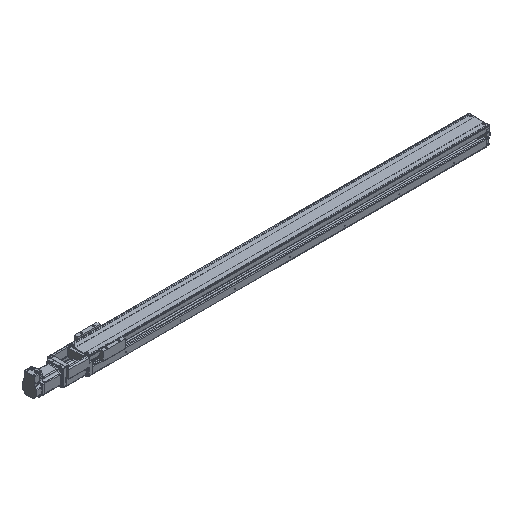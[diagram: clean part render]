
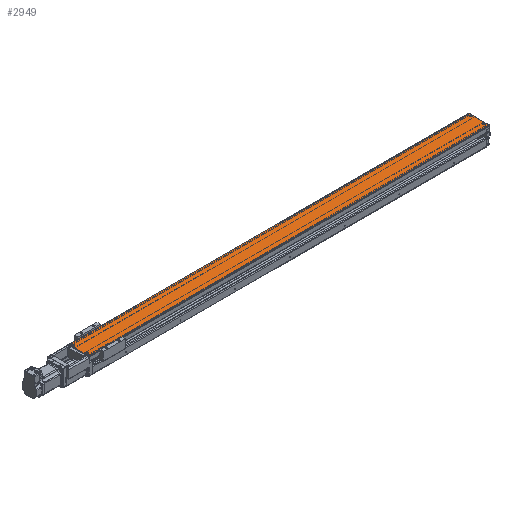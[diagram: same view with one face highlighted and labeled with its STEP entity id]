
A CAD part, isometric view. The second image highlights one B-rep face of the part: STEP entity #2949.
In plain terms, the highlighted planar face has unit normal (0, 0, 1).
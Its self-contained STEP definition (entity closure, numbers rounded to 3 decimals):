
#288 = PLANE('',#289);
#289 = AXIS2_PLACEMENT_3D('',#290,#291,#292);
#290 = CARTESIAN_POINT('',(631.62,-721.19,-12.415));
#291 = DIRECTION('',(1.,0.,0.));
#292 = DIRECTION('',(0.,0.,-1.));
#345 = PLANE('',#346);
#346 = AXIS2_PLACEMENT_3D('',#347,#348,#349);
#347 = CARTESIAN_POINT('',(-832.38,-738.69,-15.665));
#348 = DIRECTION('',(-1.,0.,0.));
#349 = DIRECTION('',(0.,-1.,0.));
#633 = CYLINDRICAL_SURFACE('',#634,2.);
#634 = AXIS2_PLACEMENT_3D('',#635,#636,#637);
#635 = CARTESIAN_POINT('',(-449.88,-708.69,-8.33));
#636 = DIRECTION('',(1.,0.,-0.));
#637 = DIRECTION('',(0.,0.707,0.707)
  );
#1089 = CYLINDRICAL_SURFACE('',#1090,2.);
#1090 = AXIS2_PLACEMENT_3D('',#1091,#1092,#1093);
#1091 = CARTESIAN_POINT('',(-449.88,-781.69,-8.33));
#1092 = DIRECTION('',(-1.,0.,-0.));
#1093 = DIRECTION('',(0.,-0.707,0.707)
  );
#2033 = VERTEX_POINT('',#2034);
#2034 = CARTESIAN_POINT('',(-832.38,-781.69,-6.33));
#2060 = EDGE_CURVE('',#2061,#2033,#2063,.T.);
#2061 = VERTEX_POINT('',#2062);
#2062 = CARTESIAN_POINT('',(-832.38,-708.69,-6.33));
#2063 = SURFACE_CURVE('',#2064,(#2068,#2075),.PCURVE_S1.);
#2064 = LINE('',#2065,#2066);
#2065 = CARTESIAN_POINT('',(-832.38,-741.94,-6.33));
#2066 = VECTOR('',#2067,1.);
#2067 = DIRECTION('',(0.,-1.,0.));
#2068 = PCURVE('',#345,#2069);
#2069 = DEFINITIONAL_REPRESENTATION('',(#2070),#2074);
#2070 = LINE('',#2071,#2072);
#2071 = CARTESIAN_POINT('',(3.25,9.335));
#2072 = VECTOR('',#2073,1.);
#2073 = DIRECTION('',(1.,0.));
#2074 = ( GEOMETRIC_REPRESENTATION_CONTEXT(2) 
PARAMETRIC_REPRESENTATION_CONTEXT() REPRESENTATION_CONTEXT('2D SPACE',''
  ) );
#2075 = PCURVE('',#2076,#2081);
#2076 = PLANE('',#2077);
#2077 = AXIS2_PLACEMENT_3D('',#2078,#2079,#2080);
#2078 = CARTESIAN_POINT('',(-449.88,-745.19,-6.33));
#2079 = DIRECTION('',(0.,-0.,1.));
#2080 = DIRECTION('',(1.,0.,0.));
#2081 = DEFINITIONAL_REPRESENTATION('',(#2082),#2086);
#2082 = LINE('',#2083,#2084);
#2083 = CARTESIAN_POINT('',(-382.5,3.25));
#2084 = VECTOR('',#2085,1.);
#2085 = DIRECTION('',(0.,-1.));
#2086 = ( GEOMETRIC_REPRESENTATION_CONTEXT(2) 
PARAMETRIC_REPRESENTATION_CONTEXT() REPRESENTATION_CONTEXT('2D SPACE',''
  ) );
#2121 = VERTEX_POINT('',#2122);
#2122 = CARTESIAN_POINT('',(631.62,-781.69,-6.33));
#2148 = EDGE_CURVE('',#2121,#2033,#2149,.T.);
#2149 = SURFACE_CURVE('',#2150,(#2154,#2161),.PCURVE_S1.);
#2150 = LINE('',#2151,#2152);
#2151 = CARTESIAN_POINT('',(150.12,-781.69,-6.33));
#2152 = VECTOR('',#2153,1.);
#2153 = DIRECTION('',(-1.,0.,0.));
#2154 = PCURVE('',#1089,#2155);
#2155 = DEFINITIONAL_REPRESENTATION('',(#2156),#2160);
#2156 = LINE('',#2157,#2158);
#2157 = CARTESIAN_POINT('',(0.785,-600.));
#2158 = VECTOR('',#2159,1.);
#2159 = DIRECTION('',(0.,1.));
#2160 = ( GEOMETRIC_REPRESENTATION_CONTEXT(2) 
PARAMETRIC_REPRESENTATION_CONTEXT() REPRESENTATION_CONTEXT('2D SPACE',''
  ) );
#2161 = PCURVE('',#2076,#2162);
#2162 = DEFINITIONAL_REPRESENTATION('',(#2163),#2167);
#2163 = LINE('',#2164,#2165);
#2164 = CARTESIAN_POINT('',(600.,-36.5));
#2165 = VECTOR('',#2166,1.);
#2166 = DIRECTION('',(-1.,0.));
#2167 = ( GEOMETRIC_REPRESENTATION_CONTEXT(2) 
PARAMETRIC_REPRESENTATION_CONTEXT() REPRESENTATION_CONTEXT('2D SPACE',''
  ) );
#2842 = VERTEX_POINT('',#2843);
#2843 = CARTESIAN_POINT('',(631.62,-708.69,-6.33));
#2869 = EDGE_CURVE('',#2121,#2842,#2870,.T.);
#2870 = SURFACE_CURVE('',#2871,(#2875,#2882),.PCURVE_S1.);
#2871 = LINE('',#2872,#2873);
#2872 = CARTESIAN_POINT('',(631.62,-745.19,-6.33));
#2873 = VECTOR('',#2874,1.);
#2874 = DIRECTION('',(0.,1.,0.));
#2875 = PCURVE('',#288,#2876);
#2876 = DEFINITIONAL_REPRESENTATION('',(#2877),#2881);
#2877 = LINE('',#2878,#2879);
#2878 = CARTESIAN_POINT('',(-6.085,-24.));
#2879 = VECTOR('',#2880,1.);
#2880 = DIRECTION('',(0.,1.));
#2881 = ( GEOMETRIC_REPRESENTATION_CONTEXT(2) 
PARAMETRIC_REPRESENTATION_CONTEXT() REPRESENTATION_CONTEXT('2D SPACE',''
  ) );
#2882 = PCURVE('',#2076,#2883);
#2883 = DEFINITIONAL_REPRESENTATION('',(#2884),#2888);
#2884 = LINE('',#2885,#2886);
#2885 = CARTESIAN_POINT('',(1081.5,0.));
#2886 = VECTOR('',#2887,1.);
#2887 = DIRECTION('',(0.,1.));
#2888 = ( GEOMETRIC_REPRESENTATION_CONTEXT(2) 
PARAMETRIC_REPRESENTATION_CONTEXT() REPRESENTATION_CONTEXT('2D SPACE',''
  ) );
#2949 = ADVANCED_FACE('',(#2950),#2076,.T.);
#2950 = FACE_BOUND('',#2951,.T.);
#2951 = EDGE_LOOP('',(#2952,#2953,#2954,#2955));
#2952 = ORIENTED_EDGE('',*,*,#2060,.T.);
#2953 = ORIENTED_EDGE('',*,*,#2148,.F.);
#2954 = ORIENTED_EDGE('',*,*,#2869,.T.);
#2955 = ORIENTED_EDGE('',*,*,#2956,.F.);
#2956 = EDGE_CURVE('',#2061,#2842,#2957,.T.);
#2957 = SURFACE_CURVE('',#2958,(#2962,#2969),.PCURVE_S1.);
#2958 = LINE('',#2959,#2960);
#2959 = CARTESIAN_POINT('',(150.12,-708.69,-6.33));
#2960 = VECTOR('',#2961,1.);
#2961 = DIRECTION('',(1.,0.,0.));
#2962 = PCURVE('',#2076,#2963);
#2963 = DEFINITIONAL_REPRESENTATION('',(#2964),#2968);
#2964 = LINE('',#2965,#2966);
#2965 = CARTESIAN_POINT('',(600.,36.5));
#2966 = VECTOR('',#2967,1.);
#2967 = DIRECTION('',(1.,0.));
#2968 = ( GEOMETRIC_REPRESENTATION_CONTEXT(2) 
PARAMETRIC_REPRESENTATION_CONTEXT() REPRESENTATION_CONTEXT('2D SPACE',''
  ) );
#2969 = PCURVE('',#633,#2970);
#2970 = DEFINITIONAL_REPRESENTATION('',(#2971),#2975);
#2971 = LINE('',#2972,#2973);
#2972 = CARTESIAN_POINT('',(0.785,600.));
#2973 = VECTOR('',#2974,1.);
#2974 = DIRECTION('',(0.,1.));
#2975 = ( GEOMETRIC_REPRESENTATION_CONTEXT(2) 
PARAMETRIC_REPRESENTATION_CONTEXT() REPRESENTATION_CONTEXT('2D SPACE',''
  ) );
